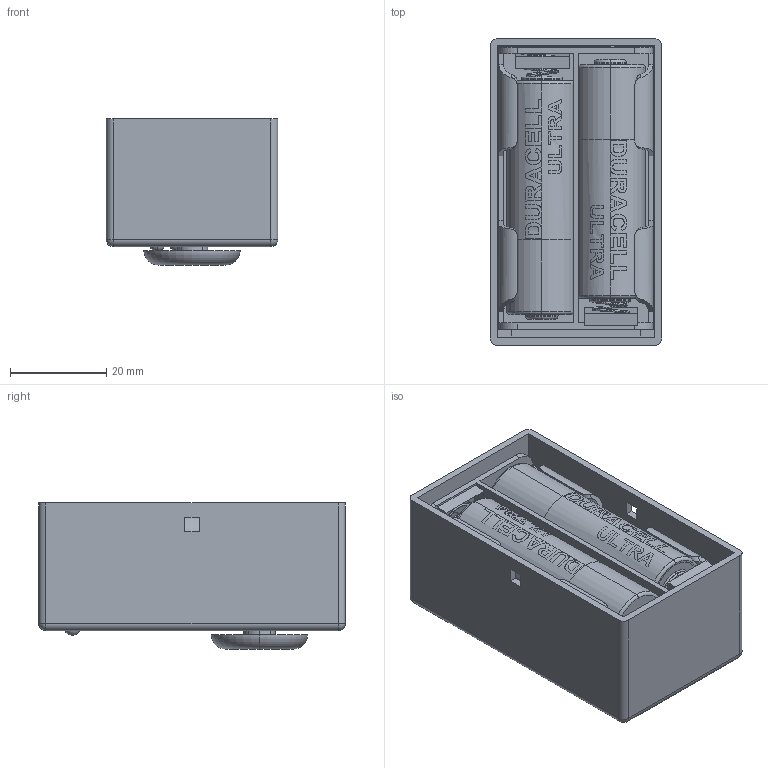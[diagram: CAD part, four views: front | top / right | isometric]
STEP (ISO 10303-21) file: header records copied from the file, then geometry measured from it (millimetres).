
FILE_DESCRIPTION (( 'STEP AP214' ), '1' );
FILE_NAME ('Assem_btn.STEP', '2015-05-07T19:12:05', ( '' ), ( '' ), 'SwSTEP 2.0', 'SolidWorks 2013', '' );
FILE_SCHEMA (( 'AUTOMOTIVE_DESIGN' ));
Length unit declared in the file: millimetre
Products named in the file (44): User Library-ESP_12_E_U1; User Library-IT-1187_По умолчаниюY§é§_§_§ú§e; User Library-ESP_12_E_User_Library-QFN-32-5x5mm-WithPad; User Library-ESP_12_E_U2; User Library-SOD123-1; User Library-ESP_12_E_User_Library-SO8-Wide-5mmx5mm; User Library-SOT-23; User Library-ESP_12_E_X1; User Library-0805 SMD Resistor; User Library-ESP_12_E_User_Library-Crystal-SMT-2520; User Library-0805 SMD Capacitor; User Library-ESP_12_E_User_Library-Osc_KC2520_Imported_5; User Library-ESP_12_E; User Library-ESP_12_E_User_Library-Osc_KC2520_Imported_4; User Library-ESP_12_E_5_ESP_12_CORE; User Library-ESP_12_E_C6; User Library-ESP_12_E_4_ESP_12_CORE; User Library-ESP_12_E_User_Library-0402(1005M)_Cap; User Library-ESP_12_E_Board; User Library-ESP_12_E_LED1; User Library-ESP_12_E_C8; button_cap; User Library-ESP_12_E_User_Library-0603(1608M)_LED; User Library-ESP_12_E_C1; User Library-omron_b3f4050; User Library-ESP_12_E_R1; User Library-ESP_12_E_C2; User Library-2ea.aa.in_holder; User Library-ESP_12_E_User_Library-0402(1005M)_Res; User Library-ESP_12_E_C3; User Library-2ea.aa.in_holder_SW3dPS-Conical Spring; Board; User Library-ESP_12_E_C4; User Library-2ea.aa.in_holder_SW3dPS-duracell ultra aa 1_5v mx 1500 lr6; case; User Library-ESP_12_E_C5; User Library-2ea.aa.in_holder_R6.AA.UM3-1.5V.holder; User Library-ESP_12_E_L1; esp8266_dash_button_pcb; Assem_btn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
Assembly tree (72 placements, depth 6):
  Assem_btn
    case
    esp8266_dash_button_pcb
      Board
      User Library-ESP_12_E
        User Library-ESP_12_E_R1
          User Library-ESP_12_E_User_Library-0402(1005M)_Res
        User Library-ESP_12_E_LED1
          User Library-ESP_12_E_User_Library-0603(1608M)_LED
        User Library-ESP_12_E_C6
          User Library-ESP_12_E_User_Library-0402(1005M)_Cap
        User Library-ESP_12_E_X1
          User Library-ESP_12_E_User_Library-Crystal-SMT-2520
            User Library-ESP_12_E_User_Library-Osc_KC2520_Imported_4
            User Library-ESP_12_E_User_Library-Osc_KC2520_Imported_5
        User Library-ESP_12_E_U2
          User Library-ESP_12_E_User_Library-SO8-Wide-5mmx5mm
        User Library-ESP_12_E_U1
          User Library-ESP_12_E_User_Library-QFN-32-5x5mm-WithPad
        User Library-ESP_12_E_R5
          User Library-ESP_12_E_User_Library-0402(1005M)_Res
        User Library-ESP_12_E_L2
          User Library-ESP_12_E_User_Library-0402(1005M)_Res
        User Library-ESP_12_E_L1
          User Library-ESP_12_E_User_Library-0402(1005M)_Res
        User Library-ESP_12_E_C5
          User Library-ESP_12_E_User_Library-0402(1005M)_Cap
        User Library-ESP_12_E_C4
          User Library-ESP_12_E_User_Library-0402(1005M)_Cap
        User Library-ESP_12_E_C3
          User Library-ESP_12_E_User_Library-0402(1005M)_Cap
        User Library-ESP_12_E_C2
          User Library-ESP_12_E_User_Library-0402(1005M)_Cap
        User Library-ESP_12_E_C1
          User Library-ESP_12_E_User_Library-0402(1005M)_Cap
        User Library-ESP_12_E_C8
          User Library-ESP_12_E_User_Library-0402(1005M)_Cap
        User Library-ESP_12_E_Board
        User Library-ESP_12_E_4_ESP_12_CORE
        User Library-ESP_12_E_5_ESP_12_CORE
      User Library-0805 SMD Capacitor  x4
      User Library-0805 SMD Resistor  x14
      User Library-SOT-23  x3
      User Library-SOD123-1
      User Library-IT-1187_По умолчаниюY§é§_§_§ú§e
      mypackage_3mm_green_3 mm Verde Largo
      mypackage_3mm_red_3 mm Verde Largo
    User Library-2ea.aa.in_holder
      User Library-2ea.aa.in_holder_R6.AA.UM3-1.5V.holder
      User Library-2ea.aa.in_holder_SW3dPS-duracell ultra aa 1_5v mx 1500 lr6  x2
      User Library-2ea.aa.in_holder_SW3dPS-Conical Spring  x2
    User Library-omron_b3f4050
    button_cap
Bounding box: 35.6 x 63.6 x 30.3 mm (x, y, z)
Volume: 34977.3 mm3; surface area: 35283.6 mm2
Topology: 73 solids, 79 shells, 3977 faces, 10314 edges, 6406 vertices
Faces by surface type: plane 2158, cylinder 940, bspline 679, sphere 152, torus 36, cone 12
Entity records: 85663 total; most frequent: CARTESIAN_POINT 28191, ORIENTED_EDGE 11108, DIRECTION 9481, EDGE_CURVE 5560, VECTOR 4153, LINE 4153, VERTEX_POINT 3653, AXIS2_PLACEMENT_3D 2664
